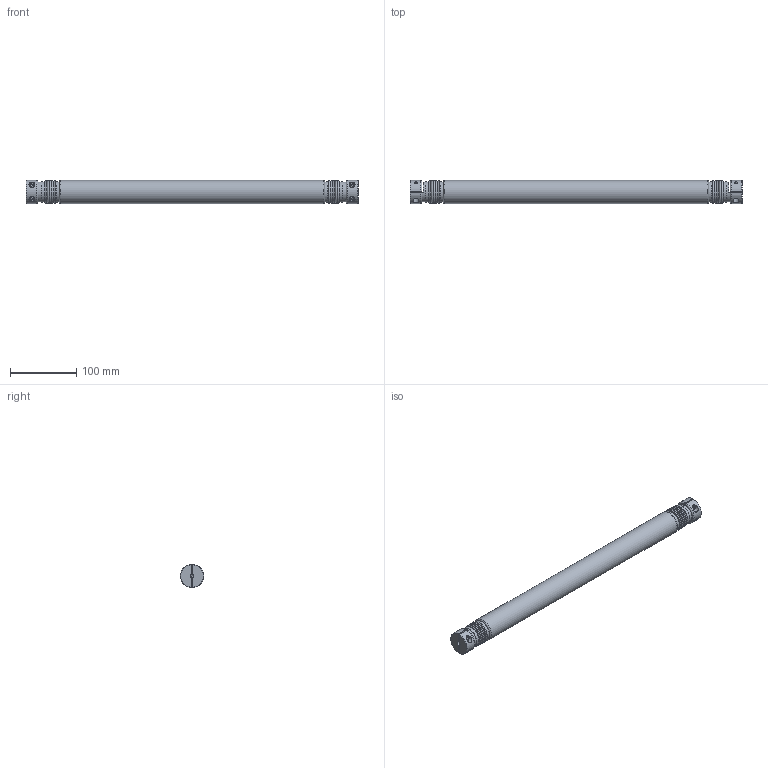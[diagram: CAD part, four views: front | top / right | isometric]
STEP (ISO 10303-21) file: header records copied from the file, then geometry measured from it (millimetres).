
FILE_DESCRIPTION( ( 'Unknown' ), '1' );
FILE_NAME( 'F:/JAKOB-STEP+IGES-Dateien/STEP-Dateien/WDS/WDS 15 - L=500.stp', 'Unknown', ( 'Unknown' ), ( 'Unknown' ), 'PSStep 10.1', 'Unknown', ' ' );
FILE_SCHEMA( ( 'AUTOMOTIVE_DESIGN { 1 0 10303 214 1 1 1 1 }' ) );
Length unit declared in the file: millimetre
Products named in the file (1): WDS 15 Nabe
Bounding box: 500 x 35 x 35 mm (x, y, z)
Volume: 190593.6 mm3; surface area: 129902.1 mm2
Topology: 1 solids, 4 shells, 349 faces, 745 edges, 488 vertices
Faces by surface type: plane 200, cylinder 64, torus 62, cone 22, bspline 1
Full cylindrical faces by diameter (mm): 4.2 x4, 5 x6, 5.4 x4, 6 x2, 6.4 x2, 8.5 x4, 9 x4, 10 x4, 12 x2, 12.7 x2, 13 x2, 15 x4, 20 x2, 23.5 x2, 30 x3, 30.2 x4, 31 x4, 35 x1
Entity records: 11797 total; most frequent: CARTESIAN_POINT 2025, DIRECTION 1532, ORIENTED_EDGE 1118, AXIS2_PLACEMENT_3D 648, EDGE_LOOP 578, EDGE_CURVE 559, FACE_OUTER_BOUND 464, VERTEX_POINT 437
